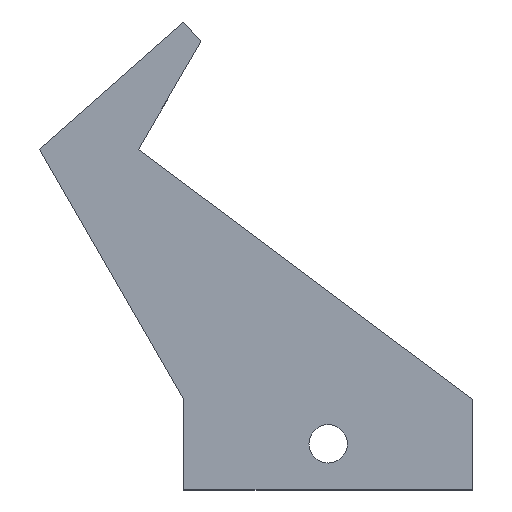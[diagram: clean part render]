
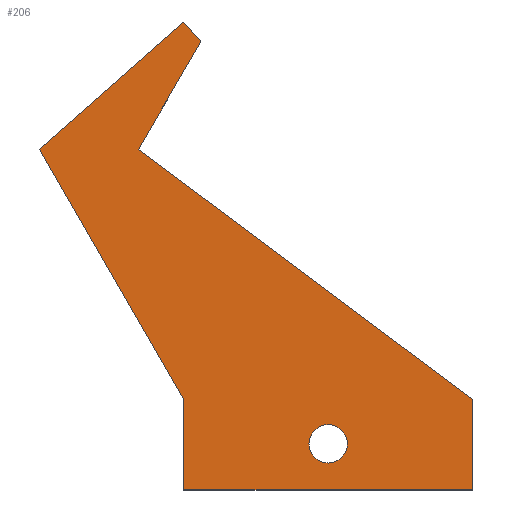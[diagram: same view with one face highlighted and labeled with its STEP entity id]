
A CAD part, top view. The second image highlights one B-rep face of the part: STEP entity #206.
In plain terms, the highlighted planar face has unit normal (0, 0, 1).
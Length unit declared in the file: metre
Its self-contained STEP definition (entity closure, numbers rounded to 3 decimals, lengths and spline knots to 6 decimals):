
#12=CIRCLE('',#230,0.002);
#49=ORIENTED_EDGE('',*,*,#69,.F.);
#50=ORIENTED_EDGE('',*,*,#73,.F.);
#51=ORIENTED_EDGE('',*,*,#76,.T.);
#52=ORIENTED_EDGE('',*,*,#79,.F.);
#53=ORIENTED_EDGE('',*,*,#82,.F.);
#54=ORIENTED_EDGE('',*,*,#85,.F.);
#55=ORIENTED_EDGE('',*,*,#88,.T.);
#56=ORIENTED_EDGE('',*,*,#90,.T.);
#57=ORIENTED_EDGE('',*,*,#91,.F.);
#69=EDGE_CURVE('',#95,#96,#113,.T.);
#73=EDGE_CURVE('',#98,#95,#117,.T.);
#76=EDGE_CURVE('',#98,#100,#120,.T.);
#79=EDGE_CURVE('',#102,#100,#123,.T.);
#82=EDGE_CURVE('',#104,#102,#126,.T.);
#85=EDGE_CURVE('',#106,#104,#129,.T.);
#88=EDGE_CURVE('',#106,#108,#132,.T.);
#90=EDGE_CURVE('',#108,#96,#134,.T.);
#91=EDGE_CURVE('',#109,#109,#12,.T.);
#95=VERTEX_POINT('',#292);
#96=VERTEX_POINT('',#294);
#98=VERTEX_POINT('',#300);
#100=VERTEX_POINT('',#306);
#102=VERTEX_POINT('',#312);
#104=VERTEX_POINT('',#318);
#106=VERTEX_POINT('',#324);
#108=VERTEX_POINT('',#330);
#109=VERTEX_POINT('',#337);
#113=LINE('',#293,#137);
#117=LINE('',#301,#141);
#120=LINE('',#307,#144);
#123=LINE('',#313,#147);
#126=LINE('',#319,#150);
#129=LINE('',#325,#153);
#132=LINE('',#331,#156);
#134=LINE('',#334,#158);
#137=VECTOR('',#240,1.);
#141=VECTOR('',#246,1.);
#144=VECTOR('',#251,1.);
#147=VECTOR('',#256,1.);
#150=VECTOR('',#261,1.);
#153=VECTOR('',#266,1.);
#156=VECTOR('',#271,1.);
#158=VECTOR('',#275,1.);
#169=EDGE_LOOP('',(#49,#50,#51,#52,#53,#54,#55,#56));
#170=EDGE_LOOP('',(#57));
#183=FACE_BOUND('',#169,.T.);
#184=FACE_BOUND('',#170,.T.);
#195=PLANE('',#232);
#206=ADVANCED_FACE('',(#183,#184),#195,.T.);
#230=AXIS2_PLACEMENT_3D('',#336,#278,#279);
#232=AXIS2_PLACEMENT_3D('',#340,#282,#283);
#240=DIRECTION('',(0.,-1.,0.));
#246=DIRECTION('',(0.801,-0.599,0.));
#251=DIRECTION('',(0.501,0.865,0.));
#256=DIRECTION('',(0.661,-0.75,0.));
#261=DIRECTION('',(0.75,0.661,0.));
#266=DIRECTION('',(-0.5,0.866,0.));
#271=DIRECTION('',(0.,-1.,0.));
#275=DIRECTION('',(1.,0.,0.));
#278=DIRECTION('',(0.,0.,1.));
#279=DIRECTION('',(1.,0.,0.));
#282=DIRECTION('',(0.,0.,1.));
#283=DIRECTION('',(1.,0.,0.));
#292=CARTESIAN_POINT('',(-0.03,0.,0.005));
#293=CARTESIAN_POINT('',(-0.03,-0.004701,0.005));
#294=CARTESIAN_POINT('',(-0.03,-0.009402,0.005));
#300=CARTESIAN_POINT('',(-0.064715,0.025981,0.005));
#301=CARTESIAN_POINT('',(-0.047357,0.01299,0.005));
#306=CARTESIAN_POINT('',(-0.05822,0.037192,0.005));
#307=CARTESIAN_POINT('',(-0.061468,0.031586,0.005));
#312=CARTESIAN_POINT('',(-0.06,0.03921,0.005));
#313=CARTESIAN_POINT('',(-0.05911,0.038201,0.005));
#318=CARTESIAN_POINT('',(-0.075,0.025981,0.005));
#319=CARTESIAN_POINT('',(-0.0675,0.032595,0.005));
#324=CARTESIAN_POINT('',(-0.06,0.,0.005));
#325=CARTESIAN_POINT('',(-0.0675,0.01299,0.005));
#330=CARTESIAN_POINT('',(-0.06,-0.009402,0.005));
#331=CARTESIAN_POINT('',(-0.06,-0.004701,0.005));
#334=CARTESIAN_POINT('',(-0.045,-0.009402,0.005));
#336=CARTESIAN_POINT('',(-0.045,-0.004609,0.005));
#337=CARTESIAN_POINT('',(-0.043,-0.004609,0.005));
#340=CARTESIAN_POINT('',(-0.0375,0.014904,0.005));
